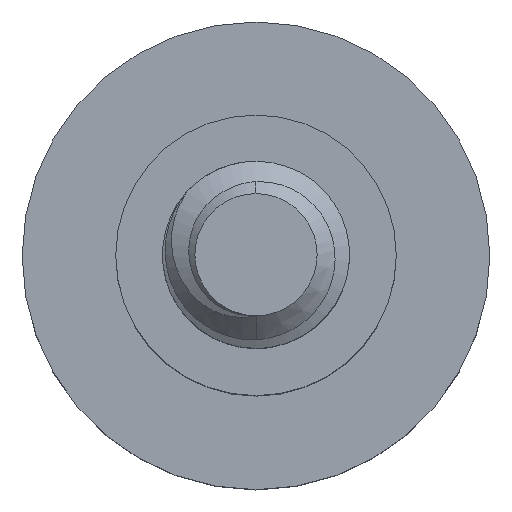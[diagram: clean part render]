
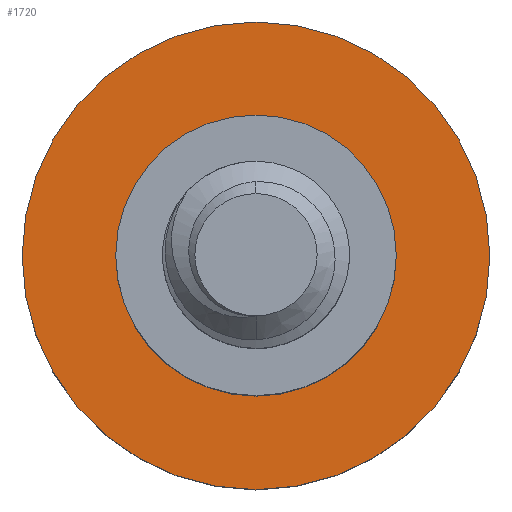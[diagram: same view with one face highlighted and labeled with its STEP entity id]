
A CAD part, top view. The second image highlights one B-rep face of the part: STEP entity #1720.
In plain terms, the highlighted planar face has unit normal (0, 0, 1).
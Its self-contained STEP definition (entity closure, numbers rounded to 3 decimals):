
#7 = EDGE_CURVE ( 'NONE', #1819, #2140, #1753, .T. ) ;
#26 = AXIS2_PLACEMENT_3D ( 'NONE', #1082, #1850, #92 ) ;
#66 = CARTESIAN_POINT ( 'NONE',  ( 0., 0., -3. ) ) ;
#92 = DIRECTION ( 'NONE',  ( -1., 0., 0. ) ) ;
#219 = VERTEX_POINT ( 'NONE', #1421 ) ;
#266 = CARTESIAN_POINT ( 'NONE',  ( 0., 0., -3. ) ) ;
#291 = EDGE_LOOP ( 'NONE', ( #2047, #1555 ) ) ;
#309 = AXIS2_PLACEMENT_3D ( 'NONE', #1933, #2306, #970 ) ;
#326 = FACE_OUTER_BOUND ( 'NONE', #291, .T. ) ;
#515 = DIRECTION ( 'NONE',  ( -1., 0., 0. ) ) ;
#647 = DIRECTION ( 'NONE',  ( 0., 0., -1. ) ) ;
#814 = EDGE_CURVE ( 'NONE', #219, #2460, #1076, .T. ) ;
#836 = FACE_BOUND ( 'NONE', #2225, .T. ) ;
#869 = AXIS2_PLACEMENT_3D ( 'NONE', #2226, #2252, #897 ) ;
#897 = DIRECTION ( 'NONE',  ( -1., 0., 0. ) ) ;
#970 = DIRECTION ( 'NONE',  ( -1., 0., 0. ) ) ;
#1040 = DIRECTION ( 'NONE',  ( 0., 0., -1. ) ) ;
#1076 = CIRCLE ( 'NONE', #869, 1.5 ) ;
#1082 = CARTESIAN_POINT ( 'NONE',  ( 0., 0., -3. ) ) ;
#1121 = CARTESIAN_POINT ( 'NONE',  ( 1.5, 0., -3. ) ) ;
#1189 = CARTESIAN_POINT ( 'NONE',  ( 2.5, 0., -3. ) ) ;
#1255 = DIRECTION ( 'NONE',  ( -1., 0., 0. ) ) ;
#1284 = AXIS2_PLACEMENT_3D ( 'NONE', #266, #1040, #1255 ) ;
#1421 = CARTESIAN_POINT ( 'NONE',  ( -1.5, 0., -3. ) ) ;
#1435 = ORIENTED_EDGE ( 'NONE', *, *, #2255, .T. ) ;
#1555 = ORIENTED_EDGE ( 'NONE', *, *, #7, .F. ) ;
#1665 = EDGE_CURVE ( 'NONE', #2140, #1819, #2037, .T. ) ;
#1720 = ADVANCED_FACE ( 'NONE', ( #836, #326 ), #1822, .F. ) ;
#1753 = CIRCLE ( 'NONE', #309, 2.5 ) ;
#1819 = VERTEX_POINT ( 'NONE', #2431 ) ;
#1822 = PLANE ( 'NONE',  #26 ) ;
#1831 = ORIENTED_EDGE ( 'NONE', *, *, #814, .T. ) ;
#1850 = DIRECTION ( 'NONE',  ( 0., 0., -1. ) ) ;
#1933 = CARTESIAN_POINT ( 'NONE',  ( 0., 0., -3. ) ) ;
#2037 = CIRCLE ( 'NONE', #2196, 2.5 ) ;
#2047 = ORIENTED_EDGE ( 'NONE', *, *, #1665, .F. ) ;
#2140 = VERTEX_POINT ( 'NONE', #1189 ) ;
#2196 = AXIS2_PLACEMENT_3D ( 'NONE', #66, #647, #515 ) ;
#2225 = EDGE_LOOP ( 'NONE', ( #1831, #1435 ) ) ;
#2226 = CARTESIAN_POINT ( 'NONE',  ( 0., 0., -3. ) ) ;
#2252 = DIRECTION ( 'NONE',  ( 0., 0., -1. ) ) ;
#2255 = EDGE_CURVE ( 'NONE', #2460, #219, #2355, .T. ) ;
#2306 = DIRECTION ( 'NONE',  ( 0., 0., -1. ) ) ;
#2355 = CIRCLE ( 'NONE', #1284, 1.5 ) ;
#2431 = CARTESIAN_POINT ( 'NONE',  ( -2.5, 0., -3. ) ) ;
#2460 = VERTEX_POINT ( 'NONE', #1121 ) ;
